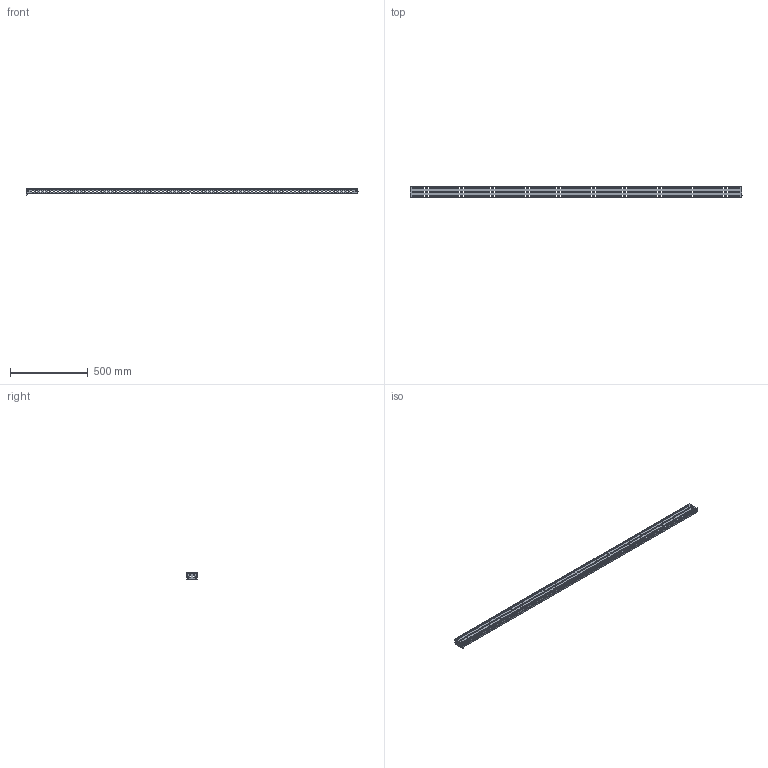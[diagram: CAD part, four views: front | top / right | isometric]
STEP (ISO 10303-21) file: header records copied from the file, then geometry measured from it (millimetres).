
FILE_DESCRIPTION(('STEP AP203'), '1');
FILE_NAME('MG 220.09 L Ðåéêà ìîíòàæíàÿ v2', '2021-05-20T08:25:39', ('UNSPECIFIED'), ('UNSPECIFIED'), 'ASCON STEP Converter 1.3', 'ASCON Math Kernel', '');
FILE_SCHEMA(('CONFIG_CONTROL_DESIGN'));
Length unit declared in the file: millimetre
Products named in the file (3): MG 220.09 L 01.001 Ðåéêà ìîíòàæíàÿ v2; MG 09 L 01.002 Êðîíøòåéí ðåéêè ìîíòàæíîé v2
Assembly tree (3 placements, depth 2):
  (unnamed)
    MG 220.09 L 01.001 Ðåéêà ìîíòàæíàÿ v2
    MG 09 L 01.002 Êðîíøòåéí ðåéêè ìîíòàæíîé v2  x2
Bounding box: 2137.45 x 74.15 x 39 mm (x, y, z)
Volume: 462568.7 mm3; surface area: 515809.1 mm2
Topology: 3 solids, 3 shells, 3926 faces, 11680 edges, 7760 vertices
Faces by surface type: cylinder 2160, plane 1758, bspline 8
Full cylindrical faces by diameter (mm): 4 x420, 4.2 x24, 6 x4, 6.5 x8
Entity records: 164228 total; most frequent: CARTESIAN_POINT 23530, DIRECTION 23030, ORIENTED_EDGE 22144, EDGE_CURVE 11072, AXIS2_PLACEMENT_3D 8110, VERTEX_POINT 7660, LINE 6810, VECTOR 6810
